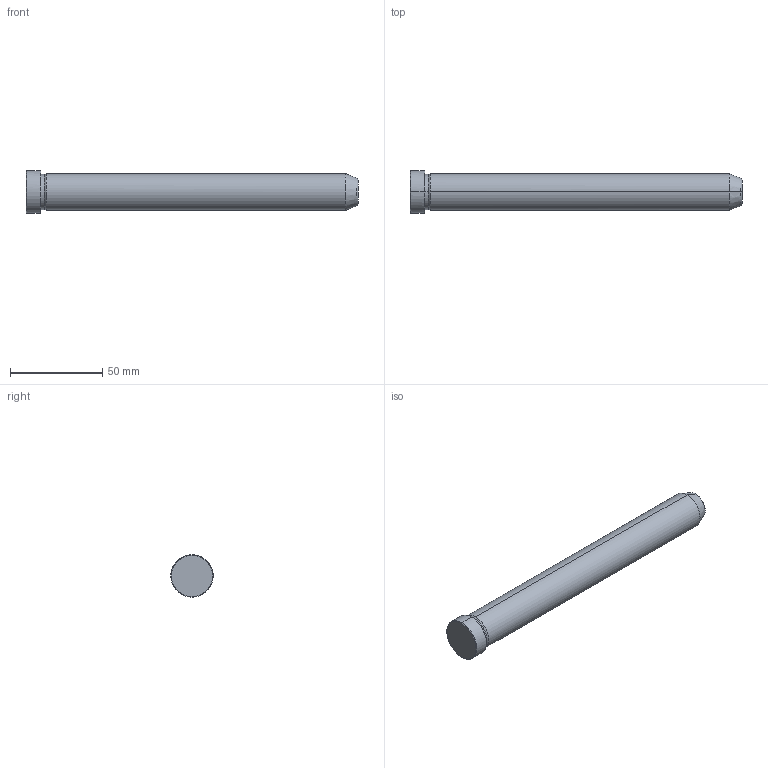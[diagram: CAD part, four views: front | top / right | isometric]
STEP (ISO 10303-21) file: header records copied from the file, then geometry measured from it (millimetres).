
FILE_DESCRIPTION(('CATIA V5 STEP Exchange'),'2;1');
FILE_NAME('C:\Users\Utente\Desktop\IO LAVORO\3D X SITO CF\X SITO\PLASTICA\549\549-20X180.stp','2021-12-11T09:50:47+00:00',('none'),('none'),'CATIA Version 5 Release 20 GA (IN-10)','CATIA V5 STEP AP203','none');
FILE_SCHEMA(('CONFIG_CONTROL_DESIGN'));
Length unit declared in the file: millimetre
Products named in the file (1): 549-20X180
Bounding box: 180 x 23 x 23 mm (x, y, z)
Volume: 56711.2 mm3; surface area: 12029 mm2
Topology: 1 solids, 1 shells, 19 faces, 56 edges, 40 vertices
Faces by surface type: cone 8, cylinder 6, plane 3, torus 2
Entity records: 736 total; most frequent: CARTESIAN_POINT 192, ORIENTED_EDGE 112, DIRECTION 86, EDGE_CURVE 56, AXIS2_PLACEMENT_3D 54, VERTEX_POINT 40, CIRCLE 34, EDGE_LOOP 20
